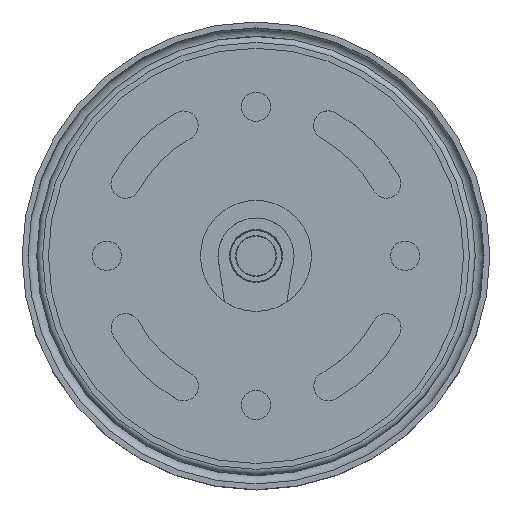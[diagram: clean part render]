
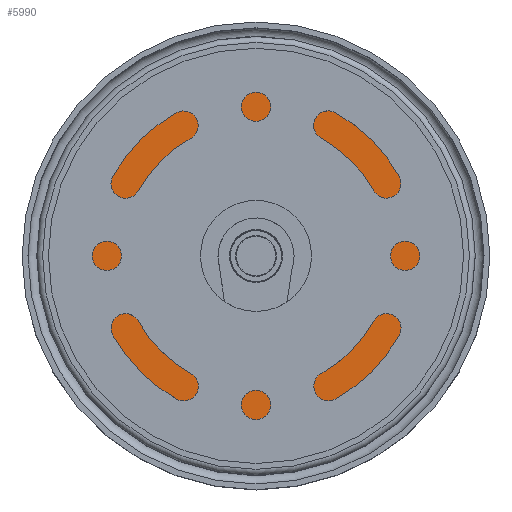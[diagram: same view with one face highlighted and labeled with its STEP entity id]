
A CAD part, top view. The second image highlights one B-rep face of the part: STEP entity #5990.
In plain terms, the highlighted planar face has unit normal (0, 0, 1).
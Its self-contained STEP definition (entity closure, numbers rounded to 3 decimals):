
#687=FACE_BOUND('',#1200,.T.);
#729=PLANE('',#6560);
#826=FACE_OUTER_BOUND('',#1199,.T.);
#1199=EDGE_LOOP('',(#4131));
#1200=EDGE_LOOP('',(#4132));
#2127=CIRCLE('',#6553,5.);
#2128=CIRCLE('',#6555,37.5);
#2321=VERTEX_POINT('',#9361);
#2322=VERTEX_POINT('',#9365);
#3006=EDGE_CURVE('',#2321,#2321,#2127,.T.);
#3007=EDGE_CURVE('',#2322,#2322,#2128,.T.);
#4131=ORIENTED_EDGE('',*,*,#3007,.T.);
#4132=ORIENTED_EDGE('',*,*,#3006,.T.);
#5990=ADVANCED_FACE('',(#826,#687),#729,.T.);
#6553=AXIS2_PLACEMENT_3D('',#9363,#7244,#7245);
#6555=AXIS2_PLACEMENT_3D('',#9366,#7248,#7249);
#6560=AXIS2_PLACEMENT_3D('',#9374,#7259,#7260);
#7244=DIRECTION('center_axis',(0.,0.,-1.));
#7245=DIRECTION('ref_axis',(1.,0.,0.));
#7248=DIRECTION('center_axis',(0.,0.,1.));
#7249=DIRECTION('ref_axis',(1.,0.,0.));
#7259=DIRECTION('center_axis',(0.,0.,1.));
#7260=DIRECTION('ref_axis',(1.,0.,0.));
#9361=CARTESIAN_POINT('',(-5.,0.,396.));
#9363=CARTESIAN_POINT('Origin',(0.,0.,396.));
#9365=CARTESIAN_POINT('',(-37.5,0.,396.));
#9366=CARTESIAN_POINT('Origin',(0.,0.,396.));
#9374=CARTESIAN_POINT('Origin',(0.,0.,396.));
